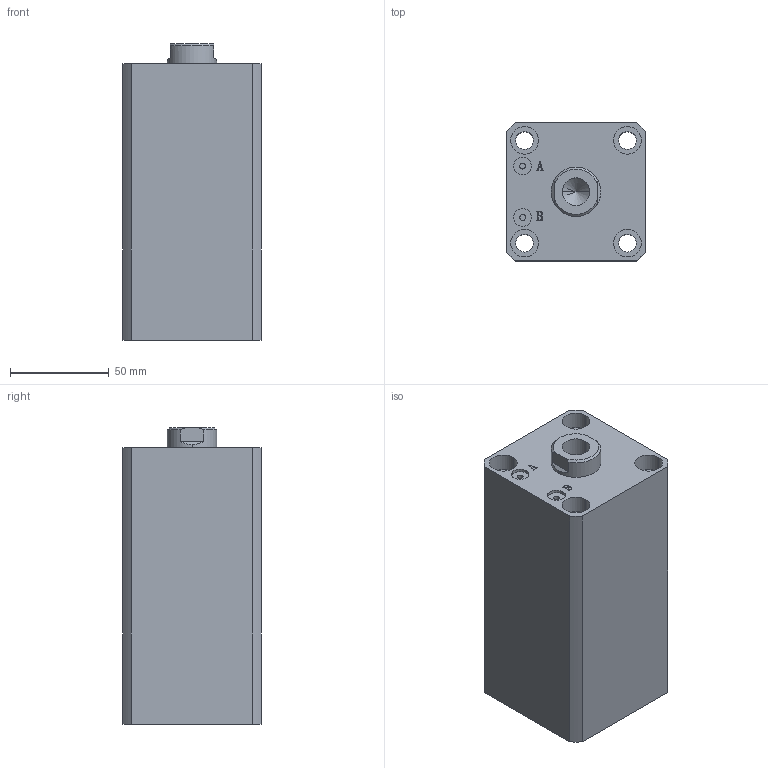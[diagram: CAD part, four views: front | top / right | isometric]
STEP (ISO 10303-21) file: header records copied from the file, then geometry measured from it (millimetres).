
FILE_DESCRIPTION (( 'STEP AP203' ), '1' );
FILE_NAME ('HTB-SDMA40-85N.STEP', '2019-10-07T11:57:23', ( '微软用户' ), ( '微软中国' ), 'SwSTEP 2.0', 'SolidWorks 2012', '' );
FILE_SCHEMA (( 'CONFIG_CONTROL_DESIGN' ));
Length unit declared in the file: millimetre
Products named in the file (3): HTB-SDMA40-85N; HTB-SDMA40-85N活塞杆; HTB-SDMA40-85掛极
Assembly tree (2 placements, depth 2):
  HTB-SDMA40-85N
    HTB-SDMA40-85掛极
    HTB-SDMA40-85N活塞杆
Bounding box: 70 x 70 x 150 mm (x, y, z)
Volume: 574119.5 mm3; surface area: 96267.6 mm2
Topology: 2 solids, 2 shells, 137 faces, 331 edges, 217 vertices
Faces by surface type: plane 65, cylinder 46, bspline 16, torus 6, cone 4
Entity records: 5074 total; most frequent: CARTESIAN_POINT 1580, ORIENTED_EDGE 658, DIRECTION 647, EDGE_CURVE 329, AXIS2_PLACEMENT_3D 232, VERTEX_POINT 217, VECTOR 183, LINE 183
